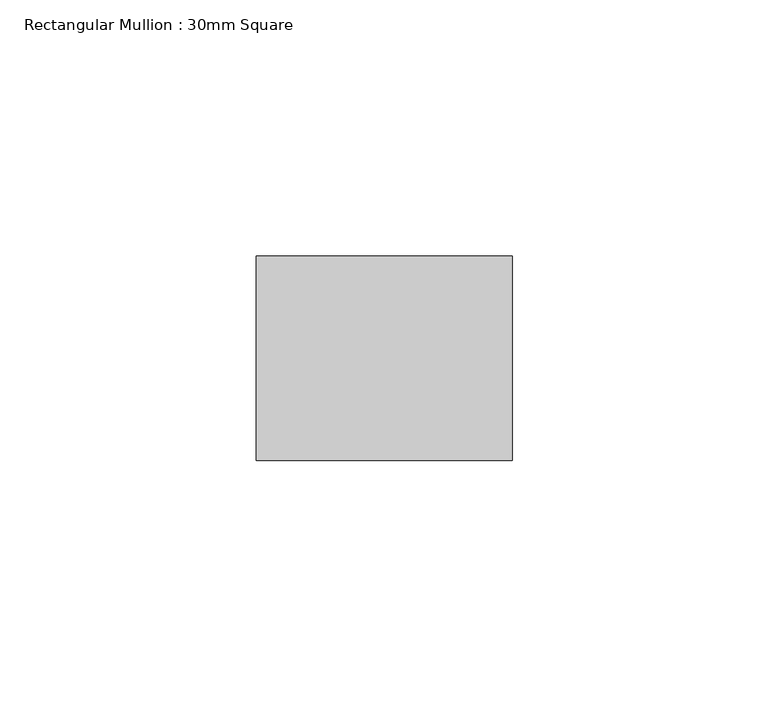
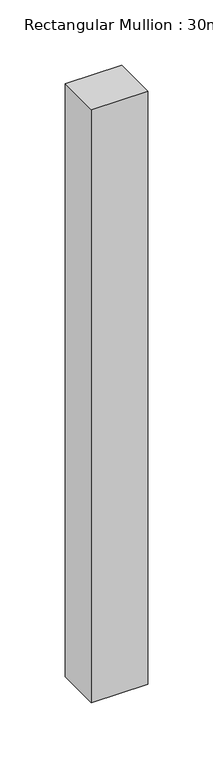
"""IFC4 building model written with IfcOpenShell, lengths in millimetres: member geometry, Rectangular Mullion : 30mm Square."""

from ifc_helpers import new_model, si_unit, frame, origin, place, context, project, spatial, polyline, outline, extrude, source, transform, mapped, element, save


def rectangular_mullion_30mm_square_da852ec3(model_context):
    return source(origin(), model_context, "Body", "SweptSolid", [
        extrude(outline(polyline([(0.0, 20.0), (0.0, -20.0), (-50.0, -20.0), (-50.0, 20.0), (0.0, 20.0)])), frame((0.0, 0.0, -555.0), z_axis=(0.0, 0.0, 1.0), x_axis=(1.0, 0.0, 0.0)), (0.0, 0.0, 1.0), 555.0),
    ])


if __name__ == "__main__":
    model = new_model("IFC4")
    model_context = context("Model", 3, world=origin())
    ifc_project = project(units=[si_unit("LENGTHUNIT", "METRE", prefix="MILLI")], contexts=[model_context])
    site = spatial("IfcSite", under=ifc_project)
    building = spatial("IfcBuilding", under=site)
    placement = place(None, origin())
    rectangular_mullion_30mm_square_shape = rectangular_mullion_30mm_square_da852ec3(model_context)
    element("IfcMember", 1, ObjectType="Rectangular Mullion : 30mm Square", at=placement, inside=building, context=model_context, shape_type="MappedRepresentation", body=[
        mapped(rectangular_mullion_30mm_square_shape, transform((0.0, 0.0, 0.0), x_axis=(1.0, 0.0, 0.0), y_axis=(0.0, 1.0, 0.0), z_axis=(0.0, 0.0, 1.0))),
    ])
    save(model, "model.ifc")
